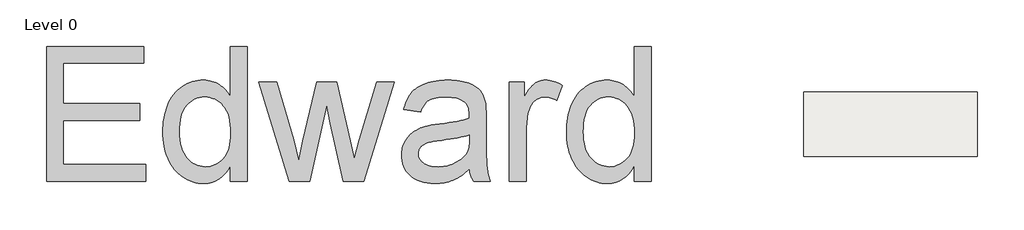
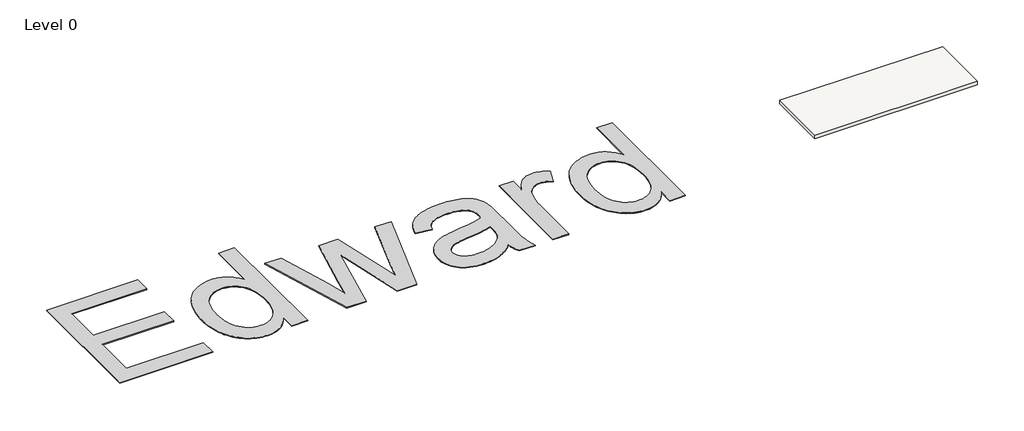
# One storey, incomplete: 1 proxy, 1 slab.
"""IFC4 building model written with IfcOpenShell, lengths in millimetres."""

import ifcopenshell
import ifcopenshell.guid

model = None  # the IFC model being written
_history = None  # IfcOwnerHistory: only IFC2X3 demands one
_inside = {}  # id of a spatial element -> (the spatial element, [elements in it])
_under = {}  # id of a project, library or spatial element -> (it, [spatial elements below it])
_declared = {}  # id of a project -> (the project, [libraries it declares])
_typed = {}  # id of a type object -> (the type object, [elements of that type])
_made_of = {}  # id of a material, layer set ... -> (it, [elements and type objects made of it])


def new_model(schema):
    """Start an empty IFC model of exactly this schema.

    Asked for "IFC4X3", IfcOpenShell would pick the latest addendum, in which some entities
    have other attributes; the version numbers below select the first issue.
    IFC2X3 requires an IfcOwnerHistory on every rooted entity: one is made here for all.
    """
    global model, _history
    if schema == "IFC4X3":
        model = ifcopenshell.file(schema_version=(4, 3, 0, 0))
    else:
        model = ifcopenshell.file(schema=schema)
    _inside.clear()
    _under.clear()
    _declared.clear()
    _typed.clear()
    _made_of.clear()
    _history = None
    if model.schema == "IFC2X3":
        org = make("IfcOrganization", Name="unknown")
        user = make(
            "IfcPersonAndOrganization",
            ThePerson=make("IfcPerson", FamilyName="unknown"),
            TheOrganization=org,
        )
        app = make(
            "IfcApplication",
            ApplicationDeveloper=org,
            Version="unknown",
            ApplicationFullName="unknown",
            ApplicationIdentifier="unknown",
        )
        _history = make(
            "IfcOwnerHistory",
            OwningUser=user,
            OwningApplication=app,
            ChangeAction="ADDED",
            CreationDate=0,
        )
    return model


def make(cls, **values):
    """One entity of the class cls with the attributes given. An attribute that is None is left unset."""
    return model.create_entity(
        cls, **{name: value for name, value in values.items() if value is not None}
    )


def rooted(cls, **values):
    """An entity with a GlobalId (a new one), such as an element, a storey or a relation."""
    return make(cls, GlobalId=ifcopenshell.guid.new(), OwnerHistory=_history, **values)


def si_unit(unit_type, name, prefix=None):
    """IfcSIUnit, for example si_unit("LENGTHUNIT", "METRE", prefix="MILLI")."""
    return make("IfcSIUnit", UnitType=unit_type, Prefix=prefix, Name=name)


def assignment(units):
    """IfcUnitAssignment: the units of a project."""
    return None if units is None else make("IfcUnitAssignment", Units=units)


def point(xyz):
    """IfcCartesianPoint."""
    return None if xyz is None else make("IfcCartesianPoint", Coordinates=xyz)


def direction(xyz):
    """IfcDirection."""
    return None if xyz is None else make("IfcDirection", DirectionRatios=xyz)


def frame(location, z_axis=None, x_axis=None):
    """IfcAxis2Placement3D, a coordinate frame: its origin and axes. An axis left out is left unset."""
    return make(
        "IfcAxis2Placement3D",
        Location=point(location),
        Axis=direction(z_axis),
        RefDirection=direction(x_axis),
    )


def origin():
    """The frame at (0, 0, 0) with its axes left unset."""
    return frame((0.0, 0.0, 0.0))


def origin_with_axes():
    """The frame at (0, 0, 0) with the z axis (0, 0, 1) and the x axis (1, 0, 0) written out."""
    return frame((0.0, 0.0, 0.0), z_axis=(0.0, 0.0, 1.0), x_axis=(1.0, 0.0, 0.0))


def place(relative_to, where):
    """IfcLocalPlacement: puts the frame where relative to a parent placement (None: the world)."""
    return make(
        "IfcLocalPlacement", PlacementRelTo=relative_to, RelativePlacement=where
    )


def context(
    kind, dimensions, precision=None, world=None, true_north=None, identifier=None
):
    """IfcGeometricRepresentationContext, for example the 3D "Model" context."""
    return make(
        "IfcGeometricRepresentationContext",
        ContextIdentifier=identifier,
        ContextType=kind,
        CoordinateSpaceDimension=dimensions,
        Precision=precision,
        WorldCoordinateSystem=world,
        TrueNorth=true_north,
    )


def project(units=None, contexts=None):
    """IfcProject with its units and contexts."""
    return rooted(
        "IfcProject",
        Name="project",
        RepresentationContexts=contexts,
        UnitsInContext=assignment(units),
    )


def spatial(cls, under=None, at=None, **own):
    """A site, building, storey or space (cls), placed at a placement, below another one or the project."""
    s = rooted(cls, ObjectPlacement=at, **own)
    if under is not None:
        _under.setdefault(under.id(), (under, []))[1].append(s)
    return s


def polyline(points):
    """IfcPolyline through the points."""
    return make("IfcPolyline", Points=[point(p) for p in points])


def outline(outer, holes=None, kind="AREA"):
    """IfcArbitraryClosedProfileDef: a profile drawn as a closed curve; with holes, ...WithVoids."""
    if holes is None:
        return make("IfcArbitraryClosedProfileDef", ProfileType=kind, OuterCurve=outer)
    return make(
        "IfcArbitraryProfileDefWithVoids",
        ProfileType=kind,
        OuterCurve=outer,
        InnerCurves=holes,
    )


def extrude(swept, where, along, depth):
    """IfcExtrudedAreaSolid: the profile swept, set in the frame where, extruded along a direction by depth."""
    return make(
        "IfcExtrudedAreaSolid",
        SweptArea=swept,
        Position=where,
        ExtrudedDirection=direction(along),
        Depth=depth,
    )


def shape(context_of_items, identifier, shape_type, items):
    """IfcShapeRepresentation: the items that make up one representation, for example the "Body"."""
    return make(
        "IfcShapeRepresentation",
        ContextOfItems=context_of_items,
        RepresentationIdentifier=identifier,
        RepresentationType=shape_type,
        Items=items,
    )


def made_of(thing, what):
    """Note that an element or type object is made of a material, layer set ...; save() writes the relation."""
    if what is not None:
        _made_of.setdefault(what.id(), (what, []))[1].append(thing)
    return thing


def element(
    cls,
    number,
    at=None,
    inside=None,
    cuts=None,
    type_object=None,
    material=None,
    context=None,
    identifier="Body",
    shape_type=None,
    held_by="IfcProductDefinitionShape",
    body=None,
    shapes=None,
    **own,
):
    """One element of the class cls, such as IfcWall. Its Tag is "e" and its number.

    at: its placement. inside: the storey or other place that contains it. cuts: it is an
    opening in that element (IfcRelVoidsElement). A single representation is given by context,
    identifier, shape_type and body (its items); several are given by shapes. held_by: the class
    of the entity that holds the representations. save() writes the other relations.
    """
    e = rooted(cls, Tag="e%d" % number, ObjectPlacement=at, **own)
    if body is not None:
        shapes = [shape(context, identifier, shape_type, body)]
    if shapes is not None:
        e.Representation = make(held_by, Representations=shapes)
    if inside is not None:
        _inside.setdefault(inside.id(), (inside, []))[1].append(e)
    if cuts is not None:
        rooted(
            "IfcRelVoidsElement", RelatingBuildingElement=cuts, RelatedOpeningElement=e
        )
    if type_object is not None:
        _typed.setdefault(type_object.id(), (type_object, []))[1].append(e)
    return made_of(e, material)


def aggregate(whole, parts):
    """IfcRelAggregates: a whole, such as a stair, and the parts it consists of."""
    return rooted("IfcRelAggregates", RelatingObject=whole, RelatedObjects=parts)


def save(model, path):
    """Write the relations noted so far, then the file.

    IfcRelAggregates (storeys below a building ...), IfcRelContainedInSpatialStructure (elements
    in a storey), IfcRelDefinesByType, IfcRelAssociatesMaterial and IfcRelDeclares: one each for
    every whole, place, type object, material and project.
    """
    for whole, parts in _under.values():
        aggregate(whole, parts)
    for where, things in _inside.values():
        rooted(
            "IfcRelContainedInSpatialStructure",
            RelatedElements=things,
            RelatingStructure=where,
        )
    for kind, things in _typed.values():
        rooted("IfcRelDefinesByType", RelatedObjects=things, RelatingType=kind)
    for what, things in _made_of.values():
        rooted("IfcRelAssociatesMaterial", RelatedObjects=things, RelatingMaterial=what)
    for by, libraries in _declared.values():
        rooted("IfcRelDeclares", RelatingContext=by, RelatedDefinitions=libraries)
    model.write(path)


model = new_model("IFC4")

# Units and contexts
model_context = context("Model", 3, world=origin())
ifc_project = project(units=[si_unit("LENGTHUNIT", "METRE", prefix="MILLI")], contexts=[model_context])

# Site, building, storey
site = spatial("IfcSite", under=ifc_project)
building = spatial("IfcBuilding", under=site)
storey = spatial("IfcBuildingStorey", under=building, Name="Level 0", Elevation=0.0)

# Proxy
placement = place(None, origin())
element("IfcBuildingElementProxy", 1, Name="10 mm", ObjectType="10 mm", at=placement, inside=storey, context=model_context, shape_type="SweptSolid", body=[
    extrude(outline(polyline([(-161276.3001225, 70710.4267394), (-161276.3001225, 80756.0577544), (-154056.0028305, 80756.0577544), (-154056.0028305, 79500.3538775), (-160020.5962456, 79500.3538775), (-160020.5962456, 76518.0571699), (-154369.9287997, 76518.0571699), (-154369.9287997, 75262.3532931), (-160020.5962456, 75262.3532931), (-160020.5962456, 71966.1306163), (-153899.0398459, 71966.1306163), (-153899.0398459, 70710.4267394), (-161276.3001225, 70710.4267394)])), origin_with_axes(), (0.0, 0.0, 1.0), 50.0),
    extrude(outline(polyline([(-147620.5204615, 70710.4267394), (-147620.5204615, 71895.0067639), (-147798.4450556, 71580.5826211), (-147996.2199491, 71308.0816974), (-148213.8451418, 71077.5039927), (-148451.3206339, 70888.8495071), (-148708.6464254, 70742.1182405), (-148985.8225161, 70637.3101929), (-149282.8489062, 70574.4253643), (-149599.7255956, 70553.4637548), (-149809.1117645, 70561.051321), (-150014.2059768, 70583.8140194), (-150215.0082325, 70621.7518502), (-150411.5185316, 70674.8648132), (-150603.7368741, 70743.1529086), (-150791.6632599, 70826.6161362), (-150975.2976892, 70925.2544962), (-151154.6401618, 71039.0679884), (-151326.8549208, 71166.4662898), (-151489.1062091, 71305.859077), (-151641.3940267, 71457.2463501), (-151783.7183736, 71620.6281091), (-151916.0792498, 71796.004354), (-152038.4766552, 71983.3750848), (-152150.91059, 72182.7403015), (-152253.3810541, 72394.100004), (-152344.7767373, 72615.4998193), (-152423.9863294, 72844.9853743), (-152491.0098304, 73082.556669), (-152545.8472403, 73328.2137034), (-152588.4985591, 73581.9564775), (-152618.9637868, 73843.7849912), (-152637.2429234, 74113.6992447), (-152643.335969, 74391.6992378), (-152637.7219364, 74663.8169511), (-152620.8798389, 74929.5733716), (-152592.8096762, 75188.9684992), (-152553.5114485, 75442.002334), (-152502.9851557, 75688.674876), (-152441.2307979, 75928.9861252), (-152368.248375, 76162.9360815), (-152284.037887, 76390.5247449), (-152188.6184945, 76608.379864), (-152082.009358, 76813.1291869), (-151964.2104775, 77004.7727138), (-151835.2218529, 77183.3104445), (-151695.0434843, 77348.7423793), (-151543.6753717, 77501.0685179), (-151381.1175151, 77640.2888604), (-151207.3699145, 77766.4034069), (-151025.4024505, 77878.4924523), (-150838.1850039, 77975.6362917), (-150645.7175746, 78057.834925), (-150448.0001628, 78125.0883522), (-150245.0327682, 78177.3965734), (-150036.8153911, 78214.7595885), (-149823.3480313, 78237.1773976), (-149604.6306888, 78244.6500006), (-149444.3720947, 78239.3042154), (-149288.5587413, 78223.2668597), (-149137.1906287, 78196.5379334), (-148990.2677569, 78159.1174368), (-148847.7901258, 78111.0053696), (-148709.7577356, 78052.2017319), (-148576.1705861, 77982.7065238), (-148447.0286773, 77902.5197451), (-148323.0601092, 77813.7873743), (-148204.9929813, 77718.6553896), (-148092.8272938, 77617.123791), (-147986.5630467, 77509.1925786), (-147886.2002399, 77394.8617523), (-147791.7388734, 77274.1313121), (-147703.1789473, 77147.001258), (-147620.5204615, 77013.4715901), (-147620.5204615, 80756.0577544), (-146364.8165846, 80756.0577544), (-146364.8165846, 70710.4267394), (-147620.5204615, 70710.4267394)]), holes=[polyline([(-151387.6320921, 74396.6043311), (-151378.7799316, 74081.8927805), (-151352.2234501, 73787.682987), (-151307.9626475, 73513.9749505), (-151245.997524, 73260.768671), (-151166.3280794, 73028.0641485), (-151068.9543138, 72815.8613831), (-150953.8762272, 72624.1603746), (-150821.0938195, 72452.9611232), (-150676.278605, 72302.0720236), (-150525.1020976, 72171.3014707), (-150367.5642974, 72060.6494643), (-150203.6652043, 71970.1160046), (-150033.4048184, 71899.7010914), (-149856.7831397, 71849.4047249), (-149673.8001681, 71819.226905), (-149484.4559037, 71809.1676317), (-149293.7512424, 71818.7670525), (-149110.3658999, 71847.5653149), (-148934.2998763, 71895.562419), (-148765.5531715, 71962.7583647), (-148604.1257856, 72049.153152), (-148450.0177185, 72154.7467809), (-148303.2289704, 72279.5392514), (-148163.759541, 72423.5305636), (-148036.4378818, 72587.257212), (-147926.0924437, 72771.2556911), (-147832.7232269, 72975.5260011), (-147756.3302314, 73200.0681418), (-147696.9134571, 73444.8821132), (-147654.472904, 73709.9679155), (-147629.0085721, 73995.3255485), (-147620.5204615, 74300.9550123), (-147629.1618563, 74636.4557277), (-147655.0860406, 74948.8871763), (-147698.2930145, 75238.2493582), (-147758.782778, 75504.5422732), (-147836.5553311, 75747.7659215), (-147931.6106737, 75967.920303), (-148043.9488058, 76165.0054177), (-148173.5697276, 76339.0212656), (-148315.8365929, 76491.3474042), (-148466.1125558, 76623.3633911), (-148624.3976164, 76735.069226), (-148790.6917745, 76826.4649092), (-148964.9950302, 76897.5504406), (-149147.3073836, 76948.3258201), (-149337.6288345, 76978.7910479), (-149535.9593831, 76988.9461238), (-149729.9021724, 76979.1934188), (-149915.6442589, 76949.9353039), (-150093.1856426, 76901.171779), (-150262.5263235, 76832.9028441), (-150423.6663016, 76745.1284994), (-150576.6055769, 76637.8487446), (-150721.3441494, 76511.0635799), (-150857.8820191, 76364.7730053), (-150982.0421924, 76197.4825001), (-151089.647676, 76007.6975437), (-151180.6984698, 75795.4181362), (-151255.1945738, 75560.6442775), (-151313.1359881, 75303.3759676), (-151354.5227125, 75023.6132066), (-151379.3547472, 74721.3559944), (-151387.6320921, 74396.6043311)])]), origin_with_axes(), (0.0, 0.0, 1.0), 50.0),
    extrude(outline(polyline([(-143257.4399987, 70710.4267394), (-145501.5201693, 78087.687016), (-144196.7653597, 78087.687016), (-142923.8936564, 73783.4676725), (-142543.7489281, 72245.7209326), (-142232.2755055, 73727.0590999), (-141219.3737454, 78087.687016), (-139723.3202984, 78087.687016), (-138715.3236316, 73739.321833), (-138438.1858619, 72397.778824), (-138040.8733071, 73812.8982321), (-136765.5490571, 78087.687016), (-135455.8891543, 78087.687016), (-137717.1371513, 70710.4267394), (-139235.2635181, 70710.4267394), (-140199.1143455, 75036.7190027), (-140478.7046618, 76385.6196517), (-141722.1458055, 70710.4267394), (-143257.4399987, 70710.4267394)])), origin_with_axes(), (0.0, 0.0, 1.0), 50.0),
    extrude(outline(polyline([(-129883.7032007, 71652.2046471), (-130032.0247905, 71506.92958), (-130181.4576906, 71372.7676149), (-130332.0019008, 71249.7187517), (-130483.6574212, 71137.7829905), (-130636.4242518, 71036.9603312), (-130790.3023926, 70947.2507738), (-130945.2918436, 70868.6543184), (-131101.3926047, 70801.1709649), (-131259.4860601, 70743.1145875), (-131420.4535935, 70692.7990605), (-131584.295205, 70650.2243837), (-131751.0108946, 70615.3905573), (-131920.6006622, 70588.2975812), (-132093.064508, 70568.9454554), (-132268.4024318, 70557.33418), (-132446.6144338, 70553.4637548), (-132734.7695028, 70562.7757678), (-133005.7184244, 70590.7118068), (-133259.4611984, 70637.2718718), (-133495.997825, 70702.4559628), (-133715.3283041, 70786.2640799), (-133917.4526357, 70888.6962229), (-134102.3708199, 71009.7523919), (-134270.0828565, 71149.432587), (-134419.2475093, 71303.5981356), (-134548.5235416, 71468.1103653), (-134657.9109536, 71642.9692761), (-134747.4097453, 71828.1748681), (-134817.0199166, 72023.7271412), (-134866.7414675, 72229.6260953), (-134896.574398, 72445.8717306), (-134906.5187082, 72672.464047), (-134902.7632462, 72807.0858646), (-134891.4968601, 72938.718641), (-134872.7195499, 73067.3623762), (-134846.4313156, 73193.0170702), (-134812.6321573, 73315.682723), (-134771.322075, 73435.3593345), (-134722.5010685, 73552.0469049), (-134666.169138, 73665.745434), (-134603.7250014, 73775.1903276), (-134536.5673768, 73879.1169912), (-134464.6962641, 73977.5254249), (-134388.1116633, 74070.4156287), (-134306.8135745, 74157.7876025), (-134220.8019976, 74239.6413465), (-134130.0769326, 74315.9768605), (-134034.6383796, 74386.7941445), (-133935.3294014, 74452.7829774), (-133832.993061, 74514.6331379), (-133727.6293583, 74572.3446259), (-133619.2382934, 74625.9174414), (-133507.8198662, 74675.3515845), (-133393.3740768, 74720.6470552), (-133275.9009251, 74761.8038534), (-133155.4004111, 74798.8219791), (-132952.298893, 74847.4130593), (-132703.5186937, 74895.0844345), (-132409.0598134, 74941.8361048), (-132068.9222521, 74987.66807), (-131711.386938, 75034.1131719), (-131378.2238061, 75082.7042521), (-131069.4328564, 75133.4413106), (-130785.0140889, 75186.3243474), (-130524.9675036, 75241.3533625), (-130289.2931004, 75298.5283559), (-130077.9908794, 75357.8493276), (-129891.0608406, 75419.3162777), (-129883.7032007, 75698.906594), (-129889.1064675, 75857.172494), (-129905.3162679, 76003.328945), (-129932.3326019, 76137.375947), (-129970.1554696, 76259.3135), (-130018.7848708, 76369.141604), (-130078.2208057, 76466.8602589), (-130148.4632741, 76552.4694649), (-130229.5122762, 76625.9692219), (-130353.135955, 76711.0419332), (-130491.0150611, 76784.7716164), (-130643.1495945, 76847.1582715), (-130809.5395552, 76898.2018983), (-130990.1849433, 76937.9024969), (-131185.0857586, 76966.2600674), (-131394.2420013, 76983.2746097), (-131617.6536713, 76988.9461238), (-131825.8135669, 76985.1715012), (-132019.8713194, 76973.8476335), (-132199.8269287, 76954.9745208), (-132365.6803948, 76928.5521629), (-132517.4317178, 76894.5805599), (-132655.0808977, 76853.0597118), (-132778.6279344, 76803.9896186), (-132888.072828, 76747.3702803), (-132987.1327194, 76681.1323606), (-133079.5247496, 76603.2065234), (-133165.2489187, 76513.5927686), (-133244.3052266, 76412.2910963), (-133316.6936734, 76299.3015064), (-133382.414259, 76174.623999), (-133441.4669834, 76038.258574), (-133493.8518467, 75890.2052315), (-134749.5557236, 76047.1682161), (-134705.1224764, 76232.6420553), (-134653.9830469, 76408.9188447), (-134596.1374353, 76575.9985842), (-134531.5856414, 76733.8812738), (-134460.3276654, 76882.5669135), (-134382.3635071, 77022.0555033), (-134297.6931667, 77152.3470433), (-134206.316644, 77273.4415334), (-134106.3370476, 77386.6035679), (-133995.857486, 77493.0977413), (-133874.877959, 77592.9240536), (-133743.3984668, 77686.0825046), (-133601.4190093, 77772.5730945), (-133448.9395865, 77852.3958233), (-133285.9601984, 77925.5506909), (-133112.480845, 77992.0376973), (-132930.2068127, 78051.2437059), (-132740.8433878, 78102.55558), (-132544.3905703, 78145.9733196), (-132340.8483602, 78181.4969248), (-132130.2167574, 78209.1263955), (-131912.495762, 78228.8617317), (-131687.685374, 78240.7029334), (-131455.7855934, 78244.6500006), (-131227.0664592, 78241.1627859), (-131009.3454639, 78230.7011416), (-130802.6226073, 78213.2650679), (-130606.8978896, 78188.8545647), (-130422.1713106, 78157.469632), (-130248.4428705, 78119.1102698), (-130085.7125692, 78073.7764781), (-129933.9804067, 78021.4682569), (-129792.5949253, 77963.8908925), (-129660.9046674, 77902.7496714), (-129538.9096328, 77838.0445934), (-129426.6098217, 77769.7756585), (-129324.005234, 77697.9428669), (-129231.0958697, 77622.5462184), (-129147.8817288, 77543.5857131), (-129074.3628113, 77461.0613509), (-129008.2590153, 77373.9767849), (-128947.2902388, 77281.3356678), (-128891.4564818, 77183.1379999), (-128840.7577444, 77079.3837809), (-128795.1940264, 76970.073011), (-128754.765328, 76855.2056901), (-128719.4716491, 76734.7818182), (-128689.3129897, 76608.8013954), (-128674.9425993, 76521.8892741), (-128662.4882609, 76420.5684412), (-128643.3277403, 76174.7006411), (-128631.831428, 75871.1979951), (-128627.9993238, 75510.0605032), (-128627.9993238, 73947.788297), (-128624.0139356, 73199.8382155), (-128612.0577707, 72586.9314831), (-128603.0906471, 72331.1193728), (-128592.1308293, 72109.0680998), (-128579.1783174, 71920.7776641), (-128564.2331113, 71766.2480656), (-128546.3755062, 71629.307825), (-128524.6857969, 71493.7854629), (-128499.1639834, 71359.6809793), (-128469.8100659, 71226.9943743), (-128436.6240443, 71095.7256478), (-128399.6059185, 70965.8747998), (-128358.7556886, 70837.4418303), (-128314.0733546, 70710.4267394), (-129569.7772315, 70710.4267394), (-129628.3317824, 70813.1271297), (-129681.3681034, 70920.1194767), (-129728.8861944, 71031.4037802), (-129770.8860555, 71146.9800404), (-129807.3676867, 71266.8482571), (-129838.331088, 71391.0084305), (-129863.7762593, 71519.4605605), (-129883.7032007, 71652.2046471)]), holes=[polyline([(-129883.7032007, 74163.6124008), (-130062.8923892, 74108.2384963), (-130263.2347924, 74054.9339281), (-130484.7304103, 74003.698696), (-130727.379243, 73954.5328002), (-130991.1812904, 73907.4362406), (-131276.1365525, 73862.4090173), (-131582.2450293, 73819.4511301), (-131909.5067208, 73778.5625792), (-132263.0566466, 73731.810909), (-132560.9644206, 73682.3001238), (-132689.0525007, 73656.5100631), (-132803.2300428, 73630.0302236), (-132903.4970471, 73602.8606054), (-132989.8535133, 73575.0012085), (-133066.9746087, 73545.1491175), (-133139.5355001, 73512.0014168), (-133207.5361877, 73475.5581067), (-133270.9766713, 73435.819187), (-133329.856951, 73392.7846578), (-133384.1770269, 73346.454519), (-133433.9368989, 73296.8287707), (-133479.1365669, 73243.9074129), (-133519.3736601, 73188.6101505), (-133554.2458076, 73131.8566885), (-133583.7530093, 73073.647027), (-133607.8952652, 73013.9811659), (-133626.6725754, 72952.8591052), (-133640.0849398, 72890.280845), (-133648.1323584, 72826.2463852), (-133650.8148313, 72760.7557259), (-133644.9708725, 72661.0826978), (-133627.4389962, 72565.6249843), (-133598.2192023, 72474.3825852), (-133557.3114909, 72387.3555008), (-133504.7158619, 72304.5437308), (-133440.4323153, 72225.9472754), (-133364.4608512, 72151.5661345), (-133276.8014696, 72081.4003081), (-133177.8373807, 72017.5957746), (-133067.9517952, 71962.2985122), (-132947.1447129, 71915.5085209), (-132815.4161339, 71877.2258008), (-132672.7660582, 71847.4503518), (-132519.1944857, 71826.1821739), (-132354.7014165, 71813.4212672), (-132179.2868506, 71809.1676317), (-132003.3166296, 71813.8619592), (-131832.2515018, 71827.9449418), (-131666.0914673, 71851.4165796), (-131504.8365261, 71884.2768724), (-131348.4866782, 71926.5258202), (-131197.0419235, 71978.1634232), (-131050.5022621, 72039.1896813), (-130908.8676939, 72109.6045944), (-130774.2841974, 72186.6873687), (-130648.8977507, 72267.7172102), (-130532.7083539, 72352.694119), (-130425.7160069, 72441.618095), (-130327.9207099, 72534.4891383), (-130239.3224627, 72631.3072488), (-130159.9212654, 72732.0724266), (-130089.717118, 72836.7846715), (-130043.157053, 72923.8500771), (-130002.8049966, 73020.7256691), (-129968.660949, 73127.4114477), (-129940.72491, 73243.9074129), (-129918.9968796, 73370.2135645), (-129903.4768579, 73506.3299028), (-129894.1648449, 73652.2564275), (-129891.0608406, 73807.9931388), (-129883.7032007, 74163.6124008)])]), origin_with_axes(), (0.0, 0.0, 1.0), 50.0),
    extrude(outline(polyline([(-126901.4064931, 70710.4267394), (-126901.4064931, 78087.687016), (-125802.6656009, 78087.687016), (-125802.6656009, 76996.3037637), (-125698.2024427, 77178.8652038), (-125595.7319786, 77345.1785224), (-125495.2542087, 77495.2437196), (-125396.7691329, 77629.0607954), (-125300.2767512, 77746.6297497), (-125205.7770637, 77847.9505825), (-125113.2700703, 77933.0232939), (-125022.7557711, 78001.8478838), (-124932.1648298, 78058.7546299), (-124839.4279102, 78108.0738099), (-124744.5450123, 78149.8054237), (-124647.516136, 78183.9494714), (-124548.3412815, 78210.505953), (-124447.0204487, 78229.4748683), (-124343.5536375, 78240.8562176), (-124237.9408481, 78244.6500006), (-124082.5107051, 78238.5952761), (-123926.4674255, 78220.4311026), (-123769.8110092, 78190.1574801), (-123612.5414563, 78147.7744086), (-123454.6587667, 78093.281888), (-123296.1629404, 78026.6799185), (-123137.0539775, 77947.9684999), (-122977.3318779, 77857.1476324), (-123396.7173524, 76731.4287271), (-123507.081951, 76791.784367), (-123617.4465495, 76844.0925882), (-123727.8111481, 76888.3533907), (-123838.1757466, 76924.5667746), (-123948.5403452, 76952.7327399), (-124058.9049437, 76972.8512865), (-124169.2695423, 76984.9224144), (-124279.6341408, 76988.9461238), (-124377.1037091, 76985.0756986), (-124472.0824096, 76973.4644231), (-124564.5702424, 76954.1122973), (-124654.5672076, 76927.0193212), (-124742.0733051, 76892.1854948), (-124827.0885349, 76849.6108181), (-124909.6128971, 76799.295291), (-124989.6463915, 76741.2389137), (-125065.6561767, 76676.3230699), (-125136.1094109, 76605.4291438), (-125201.0060941, 76528.5571352), (-125260.3462263, 76445.7070442), (-125314.1298076, 76356.8788708), (-125362.3568379, 76262.072615), (-125405.0273172, 76161.2882767), (-125442.1412456, 76054.525856), (-125489.8509419, 75885.1468541), (-125531.1993453, 75711.7824638), (-125566.1864559, 75534.4326853), (-125594.8122736, 75353.0975185), (-125617.0767985, 75167.7769635), (-125632.9800306, 74978.4710201), (-125642.5219699, 74785.1796885), (-125645.7026163, 74587.9029686), (-125645.7026163, 70710.4267394), (-126901.4064931, 70710.4267394)])), origin_with_axes(), (0.0, 0.0, 1.0), 50.0),
    extrude(outline(polyline([(-117640.5904012, 70710.4267394), (-117640.5904012, 71895.0067639), (-117818.5149954, 71580.5826211), (-118016.2898888, 71308.0816974), (-118233.9150816, 71077.5039927), (-118471.3905737, 70888.8495071), (-118728.7163651, 70742.1182405), (-119005.8924558, 70637.3101929), (-119302.9188459, 70574.4253643), (-119619.7955353, 70553.4637548), (-119829.1817042, 70561.051321), (-120034.2759165, 70583.8140194), (-120235.0781722, 70621.7518502), (-120431.5884713, 70674.8648132), (-120623.8068138, 70743.1529086), (-120811.7331996, 70826.6161362), (-120995.3676289, 70925.2544962), (-121174.7101016, 71039.0679884), (-121346.9248605, 71166.4662898), (-121509.1761488, 71305.859077), (-121661.4639664, 71457.2463501), (-121803.7883133, 71620.6281091), (-121936.1491895, 71796.004354), (-122058.546595, 71983.3750848), (-122170.9805297, 72182.7403015), (-122273.4509938, 72394.100004), (-122364.846677, 72615.4998193), (-122444.0562691, 72844.9853743), (-122511.0797701, 73082.556669), (-122565.91718, 73328.2137034), (-122608.5684988, 73581.9564775), (-122639.0337265, 73843.7849912), (-122657.3128632, 74113.6992447), (-122663.4059087, 74391.6992378), (-122657.7918762, 74663.8169511), (-122640.9497786, 74929.5733716), (-122612.8796159, 75188.9684992), (-122573.5813882, 75442.002334), (-122523.0550954, 75688.674876), (-122461.3007376, 75928.9861252), (-122388.3183147, 76162.9360815), (-122304.1078268, 76390.5247449), (-122208.6884343, 76608.379864), (-122102.0792977, 76813.1291869), (-121984.2804172, 77004.7727138), (-121855.2917926, 77183.3104445), (-121715.1134241, 77348.7423793), (-121563.7453115, 77501.0685179), (-121401.1874548, 77640.2888604), (-121227.4398542, 77766.4034069), (-121045.4723902, 77878.4924523), (-120858.2549436, 77975.6362917), (-120665.7875144, 78057.834925), (-120468.0701025, 78125.0883522), (-120265.102708, 78177.3965734), (-120056.8853308, 78214.7595885), (-119843.417971, 78237.1773976), (-119624.7006285, 78244.6500006), (-119464.4420344, 78239.3042154), (-119308.628681, 78223.2668597), (-119157.2605684, 78196.5379334), (-119010.3376966, 78159.1174368), (-118867.8600656, 78111.0053696), (-118729.8276753, 78052.2017319), (-118596.2405258, 77982.7065238), (-118467.0986171, 77902.5197451), (-118343.1300489, 77813.7873743), (-118225.0629211, 77718.6553896), (-118112.8972336, 77617.123791), (-118006.6329864, 77509.1925786), (-117906.2701796, 77394.8617523), (-117811.8088131, 77274.1313121), (-117723.248887, 77147.001258), (-117640.5904012, 77013.4715901), (-117640.5904012, 80756.0577544), (-116384.8865244, 80756.0577544), (-116384.8865244, 70710.4267394), (-117640.5904012, 70710.4267394)]), holes=[polyline([(-121407.7020318, 74396.6043311), (-121398.8498713, 74081.8927805), (-121372.2933898, 73787.682987), (-121328.0325873, 73513.9749505), (-121266.0674637, 73260.768671), (-121186.3980191, 73028.0641485), (-121089.0242535, 72815.8613831), (-120973.9461669, 72624.1603746), (-120841.1637593, 72452.9611232), (-120696.3485447, 72302.0720236), (-120545.1720373, 72171.3014707), (-120387.6342371, 72060.6494643), (-120223.735144, 71970.1160046), (-120053.4747581, 71899.7010914), (-119876.8530794, 71849.4047249), (-119693.8701078, 71819.226905), (-119504.5258435, 71809.1676317), (-119313.8211821, 71818.7670525), (-119130.4358396, 71847.5653149), (-118954.369816, 71895.562419), (-118785.6231112, 71962.7583647), (-118624.1957253, 72049.153152), (-118470.0876583, 72154.7467809), (-118323.2989101, 72279.5392514), (-118183.8294808, 72423.5305636), (-118056.5078215, 72587.257212), (-117946.1623835, 72771.2556911), (-117852.7931667, 72975.5260011), (-117776.4001711, 73200.0681418), (-117716.9833968, 73444.8821132), (-117674.5428437, 73709.9679155), (-117649.0785118, 73995.3255485), (-117640.5904012, 74300.9550123), (-117649.231796, 74636.4557277), (-117675.1559804, 74948.8871763), (-117718.3629543, 75238.2493582), (-117778.8527177, 75504.5422732), (-117856.6252708, 75747.7659215), (-117951.6806134, 75967.920303), (-118064.0187456, 76165.0054177), (-118193.6396673, 76339.0212656), (-118335.9065326, 76491.3474042), (-118486.1824956, 76623.3633911), (-118644.4675561, 76735.069226), (-118810.7617142, 76826.4649092), (-118985.06497, 76897.5504406), (-119167.3773233, 76948.3258201), (-119357.6987742, 76978.7910479), (-119556.0293228, 76988.9461238), (-119749.9721121, 76979.1934188), (-119935.7141986, 76949.9353039), (-120113.2555823, 76901.171779), (-120282.5962633, 76832.9028441), (-120443.7362413, 76745.1284994), (-120596.6755166, 76637.8487446), (-120741.4140891, 76511.0635799), (-120877.9519588, 76364.7730053), (-121002.1121322, 76197.4825001), (-121109.7176157, 76007.6975437), (-121200.7684095, 75795.4181362), (-121275.2645136, 75560.6442775), (-121333.2059278, 75303.3759676), (-121374.5926523, 75023.6132066), (-121399.4246869, 74721.3559944), (-121407.7020318, 74396.6043311)])]), origin_with_axes(), (0.0, 0.0, 1.0), 50.0),
])

# Slab
element("IfcSlab", 2, ObjectType="FL_300 mm_Generic", at=placement, inside=storey, context=model_context, shape_type="SweptSolid", body=[
    extrude(outline(polyline([(-92147.8885325, 77369.9753886), (-92147.8885325, 72569.9753886), (-105047.8885325, 72569.9753886), (-105047.8885325, 77369.9753886), (-92147.8885325, 77369.9753886)])), frame((0.0, 0.0, -300.0), z_axis=(0.0, 0.0, 1.0), x_axis=(1.0, 0.0, 0.0)), (0.0, 0.0, 1.0), 300.0),
])

save(model, "model.ifc")
